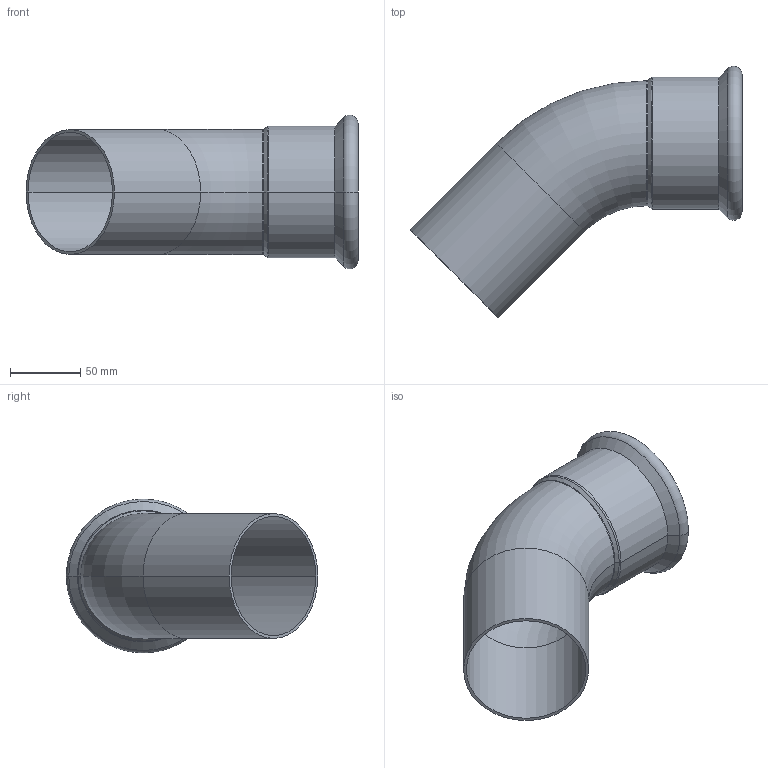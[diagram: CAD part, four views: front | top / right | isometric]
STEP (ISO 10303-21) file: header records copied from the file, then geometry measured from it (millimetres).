
FILE_DESCRIPTION(('OneSpaceDesigner STEP Export'),'2;1');
FILE_NAME('R2713 89x89.stp','2010-06-10T 8:33:41',(''),(''),'OneSpace Designer STEP processor for AP214 (Solid Model)','OneSpace Modeling 15.00A 14-Mar-2007 (C) CoCreate Software GmbH','');
FILE_SCHEMA(('AUTOMOTIVE_DESIGN { 1 0 10303 214 1 1 1 1 }'));
Length unit declared in the file: millimetre
Products named in the file (2): R2713_89x89
Assembly tree (1 placements, depth 2):
  R2713_89x89
    R2713_89x89
Bounding box: 236.06 x 178.8 x 109.48 mm (x, y, z)
Volume: 167350.1 mm3; surface area: 142868.1 mm2
Topology: 1 solids, 1 shells, 66 faces, 160 edges, 101 vertices
Faces by surface type: plane 31, cylinder 23, torus 8, cone 4
Entity records: 1721 total; most frequent: ORIENTED_EDGE 320, CARTESIAN_POINT 274, DIRECTION 253, EDGE_CURVE 160, VERTEX_POINT 101, VECTOR 93, LINE 93, AXIS2_PLACEMENT_3D 80
